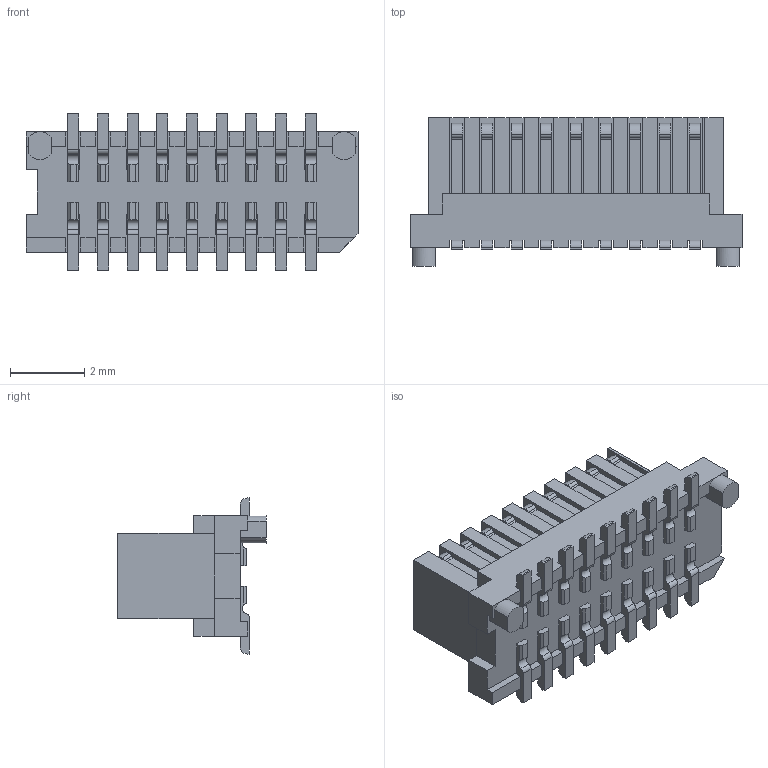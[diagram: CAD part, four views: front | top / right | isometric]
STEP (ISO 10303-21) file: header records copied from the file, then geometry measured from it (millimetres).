
FILE_DESCRIPTION (( 'STEP AP203' ), '1' );
FILE_NAME ('HC-PBB08-1-18-M-S-H3.55-XX-R-P-06 (BTB0.8 单槽 公座 立式侧插 座高3.55mm 编带 带柱)-HCTL.STEP', '2025-12-09T06:04:34', ( '' ), ( '' ), 'SwSTEP 2.0', 'SolidWorks 2025', '' );
FILE_SCHEMA (( 'CONFIG_CONTROL_DESIGN' ));
Length unit declared in the file: millimetre
Products named in the file (1): HC-PBB08-1-18-M-S-H3.55-XX-R-P-06 (BTB0.8 单槽 公座 立式侧插 座高3.55mm 编带 带柱)-HCTL
Bounding box: 8.95 x 4 x 4.21 mm (x, y, z)
Volume: 68.7 mm3; surface area: 299.7 mm2
Topology: 1 solids, 1 shells, 619 faces, 2029 edges, 1340 vertices
Faces by surface type: plane 489, cylinder 130
Entity records: 22182 total; most frequent: CARTESIAN_POINT 4097, ORIENTED_EDGE 4058, DIRECTION 3495, EDGE_CURVE 2029, LINE 1731, VECTOR 1731, VERTEX_POINT 1340, AXIS2_PLACEMENT_3D 882
